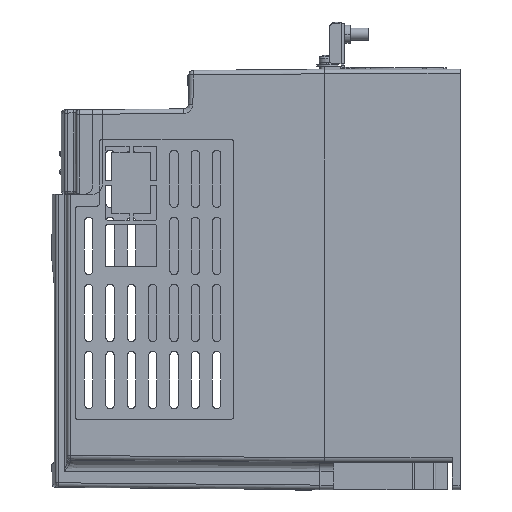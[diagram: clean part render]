
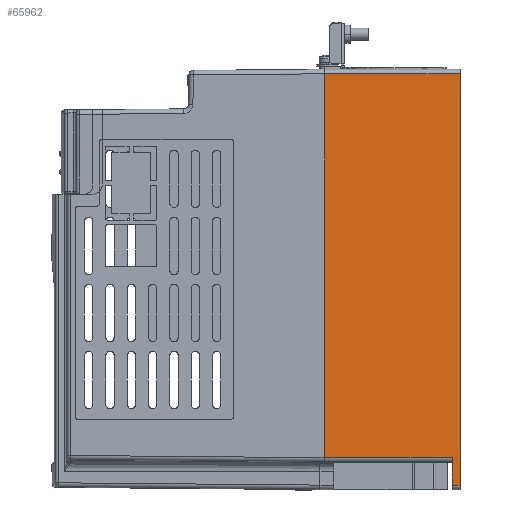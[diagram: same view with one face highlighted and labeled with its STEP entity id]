
A CAD part, left-side view. The second image highlights one B-rep face of the part: STEP entity #65962.
In plain terms, the highlighted planar face has unit normal (-1, 0, 0).
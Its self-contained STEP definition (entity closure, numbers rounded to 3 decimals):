
#63601=DIRECTION('',(0.,0.,-1.));
#63602=VECTOR('',#63601,126.);
#63603=CARTESIAN_POINT('',(-40.,-1.5,67.5));
#63604=LINE('',#63603,#63602);
#63609=DIRECTION('',(0.,-1.,0.));
#63610=VECTOR('',#63609,41.9);
#63611=CARTESIAN_POINT('',(-40.,-1.5,-58.5));
#63612=LINE('',#63611,#63610);
#63661=DIRECTION('',(0.,0.,-1.));
#63662=VECTOR('',#63661,135.);
#63663=CARTESIAN_POINT('',(-40.,-46.,67.5));
#63664=LINE('',#63663,#63662);
#63665=DIRECTION('',(0.,0.,1.));
#63666=VECTOR('',#63665,9.);
#63667=CARTESIAN_POINT('',(-40.,-43.4,-67.5));
#63668=LINE('',#63667,#63666);
#63669=DIRECTION('',(0.,1.,0.));
#63670=VECTOR('',#63669,44.5);
#63671=CARTESIAN_POINT('',(-40.,-46.,67.5));
#63672=LINE('',#63671,#63670);
#63726=DIRECTION('',(0.,-1.,0.));
#63727=VECTOR('',#63726,2.6);
#63728=CARTESIAN_POINT('',(-40.,-43.4,-67.5));
#63729=LINE('',#63728,#63727);
#64851=CARTESIAN_POINT('',(-40.,-1.5,-58.5));
#64853=VERTEX_POINT('',#64851);
#64855=CARTESIAN_POINT('',(-40.,-1.5,67.5));
#64856=VERTEX_POINT('',#64855);
#64859=CARTESIAN_POINT('',(-40.,-43.4,-58.5));
#64860=VERTEX_POINT('',#64859);
#64867=CARTESIAN_POINT('',(-40.,-43.4,-67.5));
#64868=VERTEX_POINT('',#64867);
#64877=CARTESIAN_POINT('',(-40.,-46.,67.5));
#64878=VERTEX_POINT('',#64877);
#64879=CARTESIAN_POINT('',(-40.,-46.,-67.5));
#64880=VERTEX_POINT('',#64879);
#65946=CARTESIAN_POINT('',(-40.,0.,-69.));
#65947=DIRECTION('',(-1.,0.,0.));
#65948=DIRECTION('',(0.,-1.,0.));
#65949=AXIS2_PLACEMENT_3D('',#65946,#65947,#65948);
#65950=PLANE('',#65949);
#65951=ORIENTED_EDGE('',*,*,#65879,.F.);
#65952=ORIENTED_EDGE('',*,*,#65866,.F.);
#65954=ORIENTED_EDGE('',*,*,#65953,.F.);
#65956=ORIENTED_EDGE('',*,*,#65955,.T.);
#65958=ORIENTED_EDGE('',*,*,#65957,.F.);
#65959=ORIENTED_EDGE('',*,*,#65929,.T.);
#65960=EDGE_LOOP('',(#65951,#65952,#65954,#65956,#65958,#65959));
#65961=FACE_OUTER_BOUND('',#65960,.F.);
#65962=ADVANCED_FACE('',(#65961),#65950,.T.);
#65866=EDGE_CURVE('',#64856,#64853,#63604,.T.);
#65879=EDGE_CURVE('',#64853,#64860,#63612,.T.);
#65929=EDGE_CURVE('',#64868,#64860,#63668,.T.);
#65953=EDGE_CURVE('',#64878,#64856,#63672,.T.);
#65955=EDGE_CURVE('',#64878,#64880,#63664,.T.);
#65957=EDGE_CURVE('',#64868,#64880,#63729,.T.);
